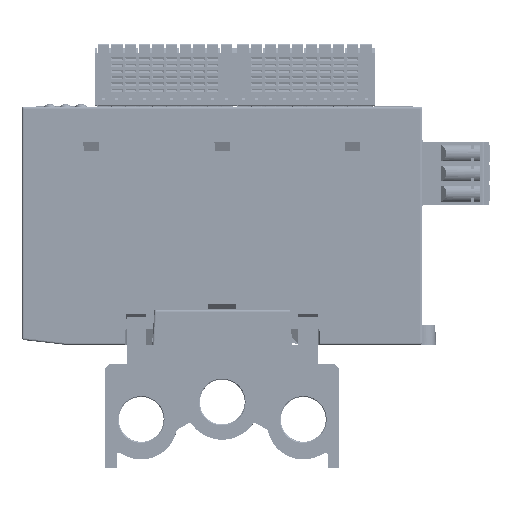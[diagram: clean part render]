
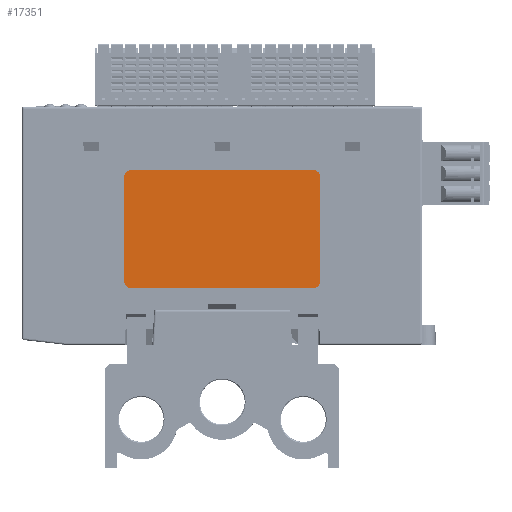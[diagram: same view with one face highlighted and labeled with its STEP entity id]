
A CAD part, front view. The second image highlights one B-rep face of the part: STEP entity #17351.
In plain terms, the highlighted planar face has unit normal (0, -1, 0).
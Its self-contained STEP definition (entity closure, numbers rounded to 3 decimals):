
#7713=FACE_OUTER_BOUND('',#41405,.T.);
#17351=ADVANCED_FACE('',(#7713),#27093,.F.);
#27093=PLANE('',#185210);
#33903=CIRCLE('',#185206,1.8);
#33904=CIRCLE('',#185207,1.8);
#33905=CIRCLE('',#185208,1.8);
#33906=CIRCLE('',#185209,1.8);
#41405=EDGE_LOOP('',(#55620,#55621,#55622,#55623,#55624,#55625,#55626,#55627));
#55620=ORIENTED_EDGE('',*,*,#123687,.F.);
#55621=ORIENTED_EDGE('',*,*,#123692,.T.);
#55622=ORIENTED_EDGE('',*,*,#123693,.F.);
#55623=ORIENTED_EDGE('',*,*,#123694,.T.);
#55624=ORIENTED_EDGE('',*,*,#123689,.F.);
#55625=ORIENTED_EDGE('',*,*,#123695,.T.);
#55626=ORIENTED_EDGE('',*,*,#123683,.F.);
#55627=ORIENTED_EDGE('',*,*,#123696,.T.);
#106018=VERTEX_POINT('',#258399);
#106019=VERTEX_POINT('',#258400);
#106020=VERTEX_POINT('',#258405);
#106021=VERTEX_POINT('',#258407);
#106022=VERTEX_POINT('',#258411);
#106023=VERTEX_POINT('',#258412);
#106024=VERTEX_POINT('',#258417);
#106025=VERTEX_POINT('',#258419);
#123683=EDGE_CURVE('',#106018,#106019,#148705,.T.);
#123687=EDGE_CURVE('',#106020,#106021,#148709,.T.);
#123689=EDGE_CURVE('',#106022,#106023,#148711,.T.);
#123692=EDGE_CURVE('',#106020,#106024,#33903,.T.);
#123693=EDGE_CURVE('',#106025,#106024,#148714,.T.);
#123694=EDGE_CURVE('',#106025,#106023,#33904,.T.);
#123695=EDGE_CURVE('',#106022,#106019,#33905,.T.);
#123696=EDGE_CURVE('',#106018,#106021,#33906,.T.);
#148705=LINE('',#258398,#166952);
#148709=LINE('',#258406,#166956);
#148711=LINE('',#258410,#166958);
#148714=LINE('',#258418,#166961);
#166952=VECTOR('',#203678,1.);
#166956=VECTOR('',#203684,1.);
#166958=VECTOR('',#203688,1.);
#166961=VECTOR('',#203695,1.);
#185206=AXIS2_PLACEMENT_3D('',#258416,#203693,#203694);
#185207=AXIS2_PLACEMENT_3D('',#258420,#203696,#203697);
#185208=AXIS2_PLACEMENT_3D('',#258421,#203698,#203699);
#185209=AXIS2_PLACEMENT_3D('',#258422,#203700,#203701);
#185210=AXIS2_PLACEMENT_3D('',#258423,#203702,#203703);
#203678=DIRECTION('',(0.,0.,-1.));
#203684=DIRECTION('',(1.,0.,0.));
#203688=DIRECTION('',(-1.,0.,0.));
#203693=DIRECTION('',(0.,-1.,0.));
#203694=DIRECTION('',(0.,0.,1.));
#203695=DIRECTION('',(0.,0.,1.));
#203696=DIRECTION('',(0.,-1.,0.));
#203697=DIRECTION('',(0.,0.,-1.));
#203698=DIRECTION('',(0.,-1.,0.));
#203699=DIRECTION('',(0.,0.,-1.));
#203700=DIRECTION('',(0.,-1.,0.));
#203701=DIRECTION('',(0.,0.,-1.));
#203702=DIRECTION('',(0.,1.,0.));
#203703=DIRECTION('',(0.,0.,-1.));
#258398=CARTESIAN_POINT('',(525.15,1997.86,34.634));
#258399=CARTESIAN_POINT('',(525.15,1997.86,47.934));
#258400=CARTESIAN_POINT('',(525.15,1997.86,21.334));
#258405=CARTESIAN_POINT('',(476.75,1997.86,49.734));
#258406=CARTESIAN_POINT('',(500.05,1997.86,49.734));
#258407=CARTESIAN_POINT('',(523.35,1997.86,49.734));
#258410=CARTESIAN_POINT('',(475.05,1997.86,19.534));
#258411=CARTESIAN_POINT('',(523.35,1997.86,19.534));
#258412=CARTESIAN_POINT('',(476.75,1997.86,19.534));
#258416=CARTESIAN_POINT('',(476.75,1997.86,47.934));
#258417=CARTESIAN_POINT('',(474.95,1997.86,47.934));
#258418=CARTESIAN_POINT('',(474.95,1997.86,34.634));
#258419=CARTESIAN_POINT('',(474.95,1997.86,21.334));
#258420=CARTESIAN_POINT('',(476.75,1997.86,21.334));
#258421=CARTESIAN_POINT('',(523.35,1997.86,21.334));
#258422=CARTESIAN_POINT('',(523.35,1997.86,47.934));
#258423=CARTESIAN_POINT('',(500.041,1997.86,23.341));
